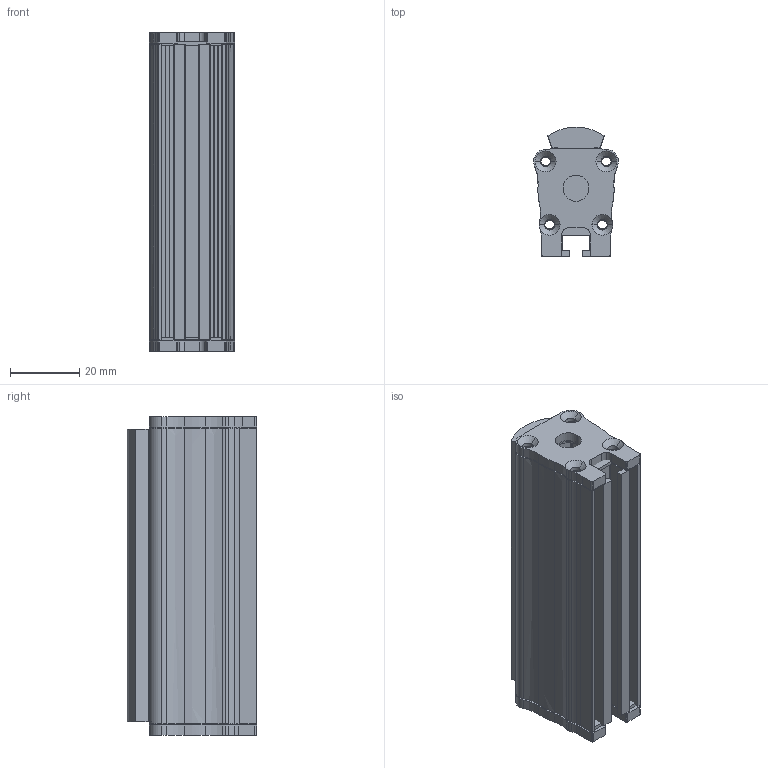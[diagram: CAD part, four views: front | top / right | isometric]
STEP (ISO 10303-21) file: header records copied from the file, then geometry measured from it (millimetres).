
FILE_DESCRIPTION(('STEP AP214'),'1');
FILE_NAME('lin+op 64.stp','2021-02-15T14:38:25',('Blanc'),('Phlox'),'Spatial InterOp 3D',' ',' ');
FILE_SCHEMA(('AUTOMOTIVE_DESIGN { 1 0 10303 214 1 1 1 1 }'));
Length unit declared in the file: inch
Products named in the file (1): Pièce_83634808
Bounding box: 24.54 x 37.28 x 92.01 mm (x, y, z)
Volume: 34979.7 mm3; surface area: 31245.8 mm2
Topology: 6 solids, 6 shells, 380 faces, 1090 edges, 718 vertices
Faces by surface type: cylinder 211, plane 103, bspline 36, cone 16, extrusion 14
Entity records: 25736 total; most frequent: CARTESIAN_POINT 7750, ORIENTED_EDGE 2180, DIRECTION 2086, STYLED_ITEM 1345, PRESENTATION_STYLE_ASSIGNMENT 1345, COLOUR_RGB 1345, EDGE_CURVE 1090, CURVE_STYLE 959
